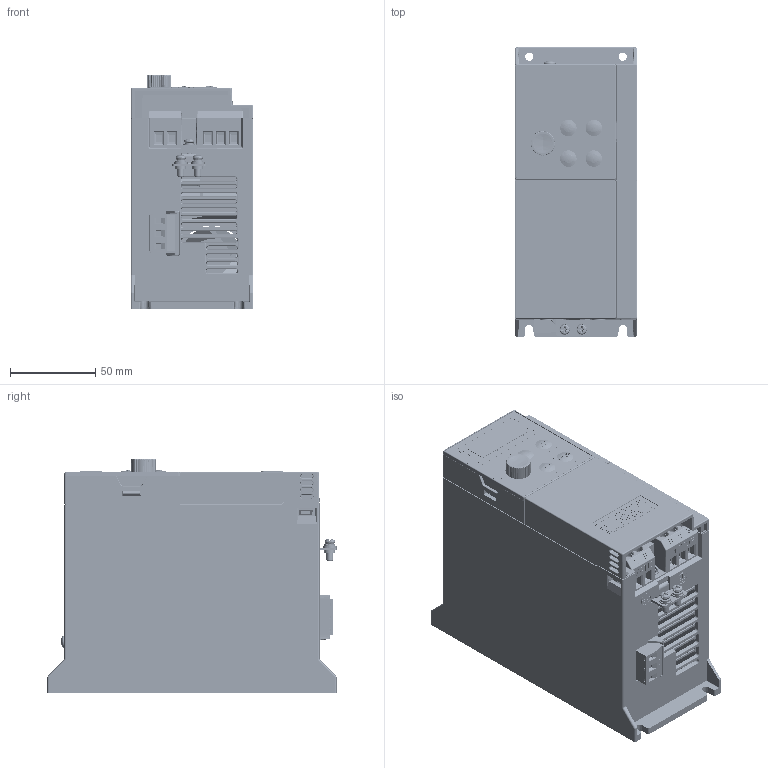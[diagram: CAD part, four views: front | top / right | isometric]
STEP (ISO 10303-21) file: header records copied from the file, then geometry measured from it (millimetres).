
FILE_DESCRIPTION((''),'2;1');
FILE_NAME('AD80-S0-DRIVE_ASM','2025-06-25T16:55:10',('wendong.luo'),(''),'CREO PARAMETRIC BY PTC INC, 2024374','CREO PARAMETRIC BY PTC INC, 2024374','');
FILE_SCHEMA(('CONFIG_CONTROL_DESIGN','GEOMETRIC_VALIDATION_PROPERTIES_MIM'));
Products named in the file (35): AD80-S0-PU-MECHANICAL-PART; E0100292; E0400085; E0400084; E0400074; E0400035; E0400088; E0400086; E0100292_ASM; E0400081; E0400082; E0400083; M0100110; M0202003; M0202052; M3-SPRING_FLAT; M3-WASHER; M0202052_ASM; M0202000; M0203177; M0104055; M0203053; AD80-S0-PU_ASM; AD80-LCP-MECHANICAL_PART; E0100294; 0805-LED; E0200191; E0200192; E0400038; E0300012; E0400011; E0100294_ASM; M0203065_00; AD80-KP00_ASM; AD80-S0-DRIVE_ASM
Assembly tree (49 placements, depth 4):
  AD80-S0-DRIVE_ASM
    AD80-S0-PU_ASM
      AD80-S0-PU-MECHANICAL-PART
      E0100292_ASM
        E0100292
        E0400085  x3
        E0400084  x2
        E0400074
        E0400035
        E0400088
        E0400086  x3
      E0400081
      E0400082
      E0400083
      M0100110
      M0202003  x2
      M0202052_ASM
        M0202052
        M3-SPRING_FLAT
        M3-WASHER
      M0202000
      M0203177
      M0104055
      M0203053
    AD80-KP00_ASM
      AD80-LCP-MECHANICAL_PART
      E0100294_ASM
        E0100294
        0805-LED  x6
        E0200191
        E0200192
        E0400038  x4
        E0300012
        E0400035
        E0400011
      M0203065_00
Bounding box: 72 x 170.04 x 137.6 mm (x, y, z)
Volume: 307620.4 mm3; surface area: 301857.7 mm2
Topology: 48 solids, 101 shells, 12076 faces, 32590 edges, 21194 vertices
Faces by surface type: plane 7269, cylinder 1730, extrusion 1206, bspline 694, cone 634, torus 315, sphere 228
Entity records: 450410 total; most frequent: CARTESIAN_POINT 108769, ORIENTED_EDGE 55062, DIRECTION 45532, EDGE_CURVE 27663, PRESENTATION_STYLE_ASSIGNMENT 26460, STYLED_ITEM 25674, CURVE_STYLE 25007, VECTOR 19304
